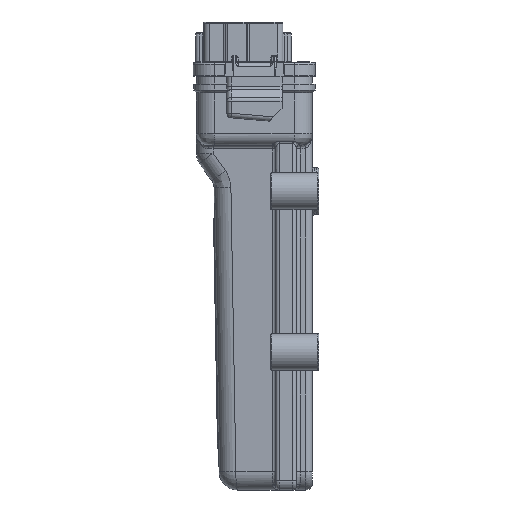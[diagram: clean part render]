
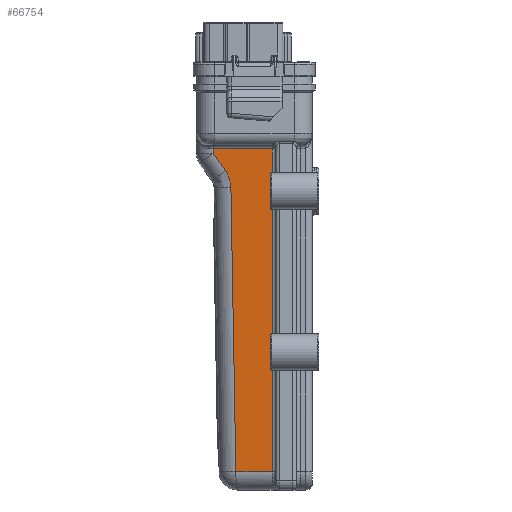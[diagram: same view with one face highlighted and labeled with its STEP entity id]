
A CAD part, left-side view. The second image highlights one B-rep face of the part: STEP entity #66754.
In plain terms, the highlighted planar face has unit normal (-0.996, 0.087, 0).
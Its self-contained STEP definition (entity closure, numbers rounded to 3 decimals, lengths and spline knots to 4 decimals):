
#1430=ELLIPSE('',#72959,0.0237,0.0236);
#1431=ELLIPSE('',#72966,0.0237,0.0236);
#1432=ELLIPSE('',#72967,0.0237,0.0236);
#1433=ELLIPSE('',#72968,0.0237,0.0236);
#7241=B_SPLINE_CURVE_WITH_KNOTS('',3,(#143269,#143270,#143271,#143272,#143273,
#143274,#143275),.UNSPECIFIED.,.F.,.F.,(4,1,1,1,4),(0.,0.25,0.5,0.75,1.),
 .UNSPECIFIED.);
#10969=FACE_OUTER_BOUND('',#15216,.T.);
#15216=EDGE_LOOP('',(#60096,#60097,#60098,#60099,#60100,#60101,#60102,#60103,
#60104,#60105,#60106,#60107,#60108,#60109,#60110,#60111,#60112,#60113,#60114));
#20809=LINE('',#143179,#26331);
#20812=LINE('',#143190,#26334);
#20823=LINE('',#143259,#26345);
#20824=LINE('',#143263,#26346);
#20825=LINE('',#143265,#26347);
#20826=LINE('',#143267,#26348);
#20827=LINE('',#143277,#26349);
#20828=LINE('',#143279,#26350);
#20829=LINE('',#143281,#26351);
#20830=LINE('',#143283,#26352);
#20831=LINE('',#143288,#26353);
#20832=LINE('',#143290,#26354);
#20833=LINE('',#143292,#26355);
#20834=LINE('',#143294,#26356);
#26331=VECTOR('',#90467,0.5827);
#26334=VECTOR('',#90476,0.5827);
#26345=VECTOR('',#90555,0.0075);
#26346=VECTOR('',#90558,1.0171);
#26347=VECTOR('',#90559,0.0739);
#26348=VECTOR('',#90560,0.368);
#26349=VECTOR('',#90561,4.8687);
#26350=VECTOR('',#90562,0.6274);
#26351=VECTOR('',#90563,1.7323);
#26352=VECTOR('',#90564,0.0075);
#26353=VECTOR('',#90569,0.0075);
#26354=VECTOR('',#90570,2.126);
#26355=VECTOR('',#90571,0.0075);
#26356=VECTOR('',#90574,0.4094);
#32286=VERTEX_POINT('',#143176);
#32287=VERTEX_POINT('',#143178);
#32291=VERTEX_POINT('',#143187);
#32292=VERTEX_POINT('',#143189);
#32310=VERTEX_POINT('',#143242);
#32316=VERTEX_POINT('',#143257);
#32317=VERTEX_POINT('',#143261);
#32318=VERTEX_POINT('',#143262);
#32319=VERTEX_POINT('',#143264);
#32320=VERTEX_POINT('',#143266);
#32321=VERTEX_POINT('',#143268);
#32322=VERTEX_POINT('',#143276);
#32323=VERTEX_POINT('',#143278);
#32324=VERTEX_POINT('',#143280);
#32325=VERTEX_POINT('',#143282);
#32326=VERTEX_POINT('',#143285);
#32327=VERTEX_POINT('',#143287);
#32328=VERTEX_POINT('',#143289);
#32329=VERTEX_POINT('',#143291);
#41625=EDGE_CURVE('',#32286,#32287,#20809,.T.);
#41630=EDGE_CURVE('',#32291,#32292,#20812,.T.);
#41651=EDGE_CURVE('',#32286,#32310,#1430,.T.);
#41659=EDGE_CURVE('',#32316,#32310,#20823,.T.);
#41660=EDGE_CURVE('',#32317,#32318,#20824,.T.);
#41661=EDGE_CURVE('',#32317,#32319,#20825,.T.);
#41662=EDGE_CURVE('',#32319,#32320,#20826,.T.);
#41663=EDGE_CURVE('',#32320,#32321,#7241,.T.);
#41664=EDGE_CURVE('',#32321,#32322,#20827,.T.);
#41665=EDGE_CURVE('',#32323,#32322,#20828,.T.);
#41666=EDGE_CURVE('',#32324,#32323,#20829,.T.);
#41667=EDGE_CURVE('',#32324,#32325,#20830,.T.);
#41668=EDGE_CURVE('',#32325,#32292,#1431,.T.);
#41669=EDGE_CURVE('',#32291,#32326,#1432,.T.);
#41670=EDGE_CURVE('',#32327,#32326,#20831,.T.);
#41671=EDGE_CURVE('',#32328,#32327,#20832,.T.);
#41672=EDGE_CURVE('',#32328,#32329,#20833,.T.);
#41673=EDGE_CURVE('',#32329,#32287,#1433,.T.);
#41674=EDGE_CURVE('',#32318,#32316,#20834,.T.);
#60096=ORIENTED_EDGE('',*,*,#41660,.F.);
#60097=ORIENTED_EDGE('',*,*,#41661,.T.);
#60098=ORIENTED_EDGE('',*,*,#41662,.T.);
#60099=ORIENTED_EDGE('',*,*,#41663,.T.);
#60100=ORIENTED_EDGE('',*,*,#41664,.T.);
#60101=ORIENTED_EDGE('',*,*,#41665,.F.);
#60102=ORIENTED_EDGE('',*,*,#41666,.F.);
#60103=ORIENTED_EDGE('',*,*,#41667,.T.);
#60104=ORIENTED_EDGE('',*,*,#41668,.T.);
#60105=ORIENTED_EDGE('',*,*,#41630,.F.);
#60106=ORIENTED_EDGE('',*,*,#41669,.T.);
#60107=ORIENTED_EDGE('',*,*,#41670,.F.);
#60108=ORIENTED_EDGE('',*,*,#41671,.F.);
#60109=ORIENTED_EDGE('',*,*,#41672,.T.);
#60110=ORIENTED_EDGE('',*,*,#41673,.T.);
#60111=ORIENTED_EDGE('',*,*,#41625,.F.);
#60112=ORIENTED_EDGE('',*,*,#41651,.T.);
#60113=ORIENTED_EDGE('',*,*,#41659,.F.);
#60114=ORIENTED_EDGE('',*,*,#41674,.F.);
#63051=PLANE('',#72965);
#66754=ADVANCED_FACE('',(#10969),#63051,.F.);
#72959=AXIS2_PLACEMENT_3D('',#143244,#90540,#90541);
#72965=AXIS2_PLACEMENT_3D('',#143260,#90556,#90557);
#72966=AXIS2_PLACEMENT_3D('',#143284,#90565,#90566);
#72967=AXIS2_PLACEMENT_3D('',#143286,#90567,#90568);
#72968=AXIS2_PLACEMENT_3D('',#143293,#90572,#90573);
#90467=DIRECTION('',(0.,0.,-1.));
#90476=DIRECTION('',(0.,0.,-1.));
#90540=DIRECTION('center_axis',(0.996,-0.087,0.));
#90541=DIRECTION('ref_axis',(0.087,0.996,0.));
#90555=DIRECTION('',(0.087,0.996,0.));
#90556=DIRECTION('center_axis',(0.996,-0.087,0.));
#90557=DIRECTION('ref_axis',(-0.087,-0.996,0.));
#90558=DIRECTION('',(-0.087,-0.996,0.));
#90559=DIRECTION('',(0.,0.,-1.));
#90560=DIRECTION('',(-0.05,-0.573,-0.818));
#90561=DIRECTION('',(-0.002,-0.017,-1.));
#90562=DIRECTION('',(0.087,0.996,0.));
#90563=DIRECTION('',(0.,0.,-1.));
#90564=DIRECTION('',(0.087,0.996,0.));
#90565=DIRECTION('center_axis',(0.996,-0.087,0.));
#90566=DIRECTION('ref_axis',(0.087,0.996,0.));
#90567=DIRECTION('center_axis',(0.996,-0.087,0.));
#90568=DIRECTION('ref_axis',(0.087,0.996,0.));
#90569=DIRECTION('',(0.087,0.996,0.));
#90570=DIRECTION('',(0.,0.,-1.));
#90571=DIRECTION('',(0.087,0.996,0.));
#90572=DIRECTION('center_axis',(0.996,-0.087,0.));
#90573=DIRECTION('ref_axis',(0.087,0.996,0.));
#90574=DIRECTION('',(0.,0.,-1.));
#143176=CARTESIAN_POINT('',(-2.3896,-0.2756,-1.6772));
#143178=CARTESIAN_POINT('',(-2.3896,-0.2756,-2.2598));
#143179=CARTESIAN_POINT('',(-2.3896,-0.2756,-1.6772));
#143187=CARTESIAN_POINT('',(-2.3896,-0.2756,-4.4331));
#143189=CARTESIAN_POINT('',(-2.3896,-0.2756,-5.0157));
#143190=CARTESIAN_POINT('',(-2.3896,-0.2756,-4.4331));
#143242=CARTESIAN_POINT('',(-2.3917,-0.2992,-1.6535));
#143244=CARTESIAN_POINT('Origin',(-2.3917,-0.2992,
-1.6772));
#143257=CARTESIAN_POINT('',(-2.3924,-0.3067,-1.6535));
#143259=CARTESIAN_POINT('',(-2.3924,-0.3067,-1.6535));
#143260=CARTESIAN_POINT('Origin',(-2.2785,0.9941,-7.0866));
#143261=CARTESIAN_POINT('',(-2.3037,0.7066,-1.2441));
#143262=CARTESIAN_POINT('',(-2.3924,-0.3067,-1.2441));
#143263=CARTESIAN_POINT('',(-2.3037,0.7066,-1.2441));
#143264=CARTESIAN_POINT('',(-2.3037,0.7066,-1.318));
#143265=CARTESIAN_POINT('',(-2.3037,0.7066,-1.2441));
#143266=CARTESIAN_POINT('',(-2.3221,0.4958,-1.6191));
#143267=CARTESIAN_POINT('',(-2.3037,0.7066,-1.318));
#143268=CARTESIAN_POINT('',(-2.3302,0.4033,-1.9037));
#143269=CARTESIAN_POINT('Ctrl Pts',(-2.3221,0.4958,
-1.6191));
#143270=CARTESIAN_POINT('Ctrl Pts',(-2.3234,0.4813,
-1.6397));
#143271=CARTESIAN_POINT('Ctrl Pts',(-2.3257,0.4556,
-1.6829));
#143272=CARTESIAN_POINT('Ctrl Pts',(-2.3282,0.4264,
-1.7539));
#143273=CARTESIAN_POINT('Ctrl Pts',(-2.3298,0.4083,
-1.8284));
#143274=CARTESIAN_POINT('Ctrl Pts',(-2.3302,0.4037,
-1.8784));
#143275=CARTESIAN_POINT('Ctrl Pts',(-2.3302,0.4033,
-1.9037));
#143276=CARTESIAN_POINT('',(-2.3377,0.3183,-6.7717));
#143277=CARTESIAN_POINT('',(-2.3302,0.4033,-1.9037));
#143278=CARTESIAN_POINT('',(-2.3923,-0.3067,-6.7717));
#143279=CARTESIAN_POINT('',(-2.3923,-0.3067,-6.7717));
#143280=CARTESIAN_POINT('',(-2.3924,-0.3067,-5.0394));
#143281=CARTESIAN_POINT('',(-2.3924,-0.3067,-5.0394));
#143282=CARTESIAN_POINT('',(-2.3917,-0.2992,-5.0394));
#143283=CARTESIAN_POINT('',(-2.3924,-0.3067,-5.0394));
#143284=CARTESIAN_POINT('Origin',(-2.3917,-0.2992,
-5.0157));
#143285=CARTESIAN_POINT('',(-2.3917,-0.2992,-4.4094));
#143286=CARTESIAN_POINT('Origin',(-2.3917,-0.2992,
-4.4331));
#143287=CARTESIAN_POINT('',(-2.3924,-0.3067,-4.4094));
#143288=CARTESIAN_POINT('',(-2.3924,-0.3067,-4.4094));
#143289=CARTESIAN_POINT('',(-2.3924,-0.3067,-2.2835));
#143290=CARTESIAN_POINT('',(-2.3924,-0.3067,-2.2835));
#143291=CARTESIAN_POINT('',(-2.3917,-0.2992,-2.2835));
#143292=CARTESIAN_POINT('',(-2.3924,-0.3067,-2.2835));
#143293=CARTESIAN_POINT('Origin',(-2.3917,-0.2992,
-2.2598));
#143294=CARTESIAN_POINT('',(-2.3924,-0.3067,-1.2441));
